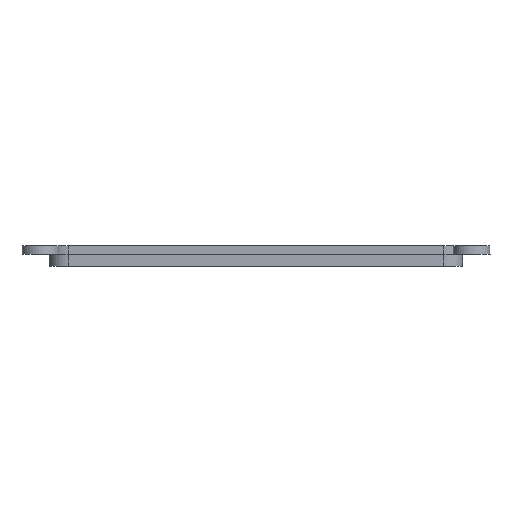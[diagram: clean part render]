
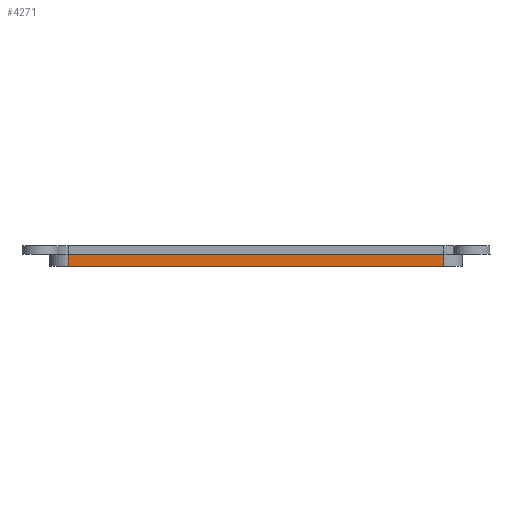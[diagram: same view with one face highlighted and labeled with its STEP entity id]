
A CAD part, left-side view. The second image highlights one B-rep face of the part: STEP entity #4271.
In plain terms, the highlighted planar face has unit normal (-1, 0, 0).
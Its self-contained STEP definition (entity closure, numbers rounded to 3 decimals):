
#100 = PLANE('',#101);
#101 = AXIS2_PLACEMENT_3D('',#102,#103,#104);
#102 = CARTESIAN_POINT('',(-98.,-54.,84.15));
#103 = DIRECTION('',(0.,0.,1.));
#104 = DIRECTION('',(1.,0.,0.));
#1950 = VERTEX_POINT('',#1951);
#1951 = CARTESIAN_POINT('',(-95.7,-47.,84.15));
#1968 = CYLINDRICAL_SURFACE('',#1969,4.7);
#1969 = AXIS2_PLACEMENT_3D('',#1970,#1971,#1972);
#1970 = CARTESIAN_POINT('',(-91.,-47.,81.15));
#1971 = DIRECTION('',(0.,0.,1.));
#1972 = DIRECTION('',(-1.,0.,0.));
#1980 = EDGE_CURVE('',#1950,#1981,#1983,.T.);
#1981 = VERTEX_POINT('',#1982);
#1982 = CARTESIAN_POINT('',(-95.7,47.,84.15));
#1983 = SURFACE_CURVE('',#1984,(#1988,#1995),.PCURVE_S1.);
#1984 = LINE('',#1985,#1986);
#1985 = CARTESIAN_POINT('',(-95.7,-52.85,84.15));
#1986 = VECTOR('',#1987,1.);
#1987 = DIRECTION('',(0.,1.,0.));
#1988 = PCURVE('',#100,#1989);
#1989 = DEFINITIONAL_REPRESENTATION('',(#1990),#1994);
#1990 = LINE('',#1991,#1992);
#1991 = CARTESIAN_POINT('',(2.3,1.15));
#1992 = VECTOR('',#1993,1.);
#1993 = DIRECTION('',(0.,1.));
#1994 = ( GEOMETRIC_REPRESENTATION_CONTEXT(2) 
PARAMETRIC_REPRESENTATION_CONTEXT() REPRESENTATION_CONTEXT('2D SPACE',''
  ) );
#1995 = PCURVE('',#1996,#2001);
#1996 = PLANE('',#1997);
#1997 = AXIS2_PLACEMENT_3D('',#1998,#1999,#2000);
#1998 = CARTESIAN_POINT('',(-95.7,-51.7,81.15));
#1999 = DIRECTION('',(1.,0.,0.));
#2000 = DIRECTION('',(0.,0.,1.));
#2001 = DEFINITIONAL_REPRESENTATION('',(#2002),#2005);
#2002 = B_SPLINE_CURVE_WITH_KNOTS('',1,(#2003,#2004),.UNSPECIFIED.,.F.,
  .F.,(2,2),(5.85,99.85),.PIECEWISE_BEZIER_KNOTS.);
#2003 = CARTESIAN_POINT('',(3.,-4.7));
#2004 = CARTESIAN_POINT('',(3.,-98.7));
#2005 = ( GEOMETRIC_REPRESENTATION_CONTEXT(2) 
PARAMETRIC_REPRESENTATION_CONTEXT() REPRESENTATION_CONTEXT('2D SPACE',''
  ) );
#2024 = CYLINDRICAL_SURFACE('',#2025,4.7);
#2025 = AXIS2_PLACEMENT_3D('',#2026,#2027,#2028);
#2026 = CARTESIAN_POINT('',(-91.,47.,81.15));
#2027 = DIRECTION('',(0.,0.,1.));
#2028 = DIRECTION('',(-1.,0.,0.));
#4198 = EDGE_CURVE('',#4199,#1950,#4201,.T.);
#4199 = VERTEX_POINT('',#4200);
#4200 = CARTESIAN_POINT('',(-95.7,-47.,81.15));
#4201 = SURFACE_CURVE('',#4202,(#4206,#4213),.PCURVE_S1.);
#4202 = LINE('',#4203,#4204);
#4203 = CARTESIAN_POINT('',(-95.7,-47.,81.15));
#4204 = VECTOR('',#4205,1.);
#4205 = DIRECTION('',(0.,0.,1.));
#4206 = PCURVE('',#1968,#4207);
#4207 = DEFINITIONAL_REPRESENTATION('',(#4208),#4212);
#4208 = LINE('',#4209,#4210);
#4209 = CARTESIAN_POINT('',(0.,0.));
#4210 = VECTOR('',#4211,1.);
#4211 = DIRECTION('',(0.,1.));
#4212 = ( GEOMETRIC_REPRESENTATION_CONTEXT(2) 
PARAMETRIC_REPRESENTATION_CONTEXT() REPRESENTATION_CONTEXT('2D SPACE',''
  ) );
#4213 = PCURVE('',#1996,#4214);
#4214 = DEFINITIONAL_REPRESENTATION('',(#4215),#4219);
#4215 = LINE('',#4216,#4217);
#4216 = CARTESIAN_POINT('',(0.,-4.7));
#4217 = VECTOR('',#4218,1.);
#4218 = DIRECTION('',(1.,0.));
#4219 = ( GEOMETRIC_REPRESENTATION_CONTEXT(2) 
PARAMETRIC_REPRESENTATION_CONTEXT() REPRESENTATION_CONTEXT('2D SPACE',''
  ) );
#4238 = PLANE('',#4239);
#4239 = AXIS2_PLACEMENT_3D('',#4240,#4241,#4242);
#4240 = CARTESIAN_POINT('',(-95.7,-51.7,81.15));
#4241 = DIRECTION('',(0.,0.,1.));
#4242 = DIRECTION('',(1.,0.,0.));
#4271 = ADVANCED_FACE('',(#4272),#1996,.F.);
#4272 = FACE_BOUND('',#4273,.F.);
#4273 = EDGE_LOOP('',(#4274,#4275,#4276,#4299));
#4274 = ORIENTED_EDGE('',*,*,#1980,.F.);
#4275 = ORIENTED_EDGE('',*,*,#4198,.F.);
#4276 = ORIENTED_EDGE('',*,*,#4277,.T.);
#4277 = EDGE_CURVE('',#4199,#4278,#4280,.T.);
#4278 = VERTEX_POINT('',#4279);
#4279 = CARTESIAN_POINT('',(-95.7,47.,81.15));
#4280 = SURFACE_CURVE('',#4281,(#4285,#4292),.PCURVE_S1.);
#4281 = LINE('',#4282,#4283);
#4282 = CARTESIAN_POINT('',(-95.7,-51.7,81.15));
#4283 = VECTOR('',#4284,1.);
#4284 = DIRECTION('',(0.,1.,0.));
#4285 = PCURVE('',#1996,#4286);
#4286 = DEFINITIONAL_REPRESENTATION('',(#4287),#4291);
#4287 = LINE('',#4288,#4289);
#4288 = CARTESIAN_POINT('',(0.,0.));
#4289 = VECTOR('',#4290,1.);
#4290 = DIRECTION('',(0.,-1.));
#4291 = ( GEOMETRIC_REPRESENTATION_CONTEXT(2) 
PARAMETRIC_REPRESENTATION_CONTEXT() REPRESENTATION_CONTEXT('2D SPACE',''
  ) );
#4292 = PCURVE('',#4238,#4293);
#4293 = DEFINITIONAL_REPRESENTATION('',(#4294),#4298);
#4294 = LINE('',#4295,#4296);
#4295 = CARTESIAN_POINT('',(0.,0.));
#4296 = VECTOR('',#4297,1.);
#4297 = DIRECTION('',(0.,1.));
#4298 = ( GEOMETRIC_REPRESENTATION_CONTEXT(2) 
PARAMETRIC_REPRESENTATION_CONTEXT() REPRESENTATION_CONTEXT('2D SPACE',''
  ) );
#4299 = ORIENTED_EDGE('',*,*,#4300,.T.);
#4300 = EDGE_CURVE('',#4278,#1981,#4301,.T.);
#4301 = SURFACE_CURVE('',#4302,(#4306,#4313),.PCURVE_S1.);
#4302 = LINE('',#4303,#4304);
#4303 = CARTESIAN_POINT('',(-95.7,47.,81.15));
#4304 = VECTOR('',#4305,1.);
#4305 = DIRECTION('',(0.,0.,1.));
#4306 = PCURVE('',#1996,#4307);
#4307 = DEFINITIONAL_REPRESENTATION('',(#4308),#4312);
#4308 = LINE('',#4309,#4310);
#4309 = CARTESIAN_POINT('',(0.,-98.7));
#4310 = VECTOR('',#4311,1.);
#4311 = DIRECTION('',(1.,0.));
#4312 = ( GEOMETRIC_REPRESENTATION_CONTEXT(2) 
PARAMETRIC_REPRESENTATION_CONTEXT() REPRESENTATION_CONTEXT('2D SPACE',''
  ) );
#4313 = PCURVE('',#2024,#4314);
#4314 = DEFINITIONAL_REPRESENTATION('',(#4315),#4319);
#4315 = LINE('',#4316,#4317);
#4316 = CARTESIAN_POINT('',(-0.,0.));
#4317 = VECTOR('',#4318,1.);
#4318 = DIRECTION('',(-0.,1.));
#4319 = ( GEOMETRIC_REPRESENTATION_CONTEXT(2) 
PARAMETRIC_REPRESENTATION_CONTEXT() REPRESENTATION_CONTEXT('2D SPACE',''
  ) );
